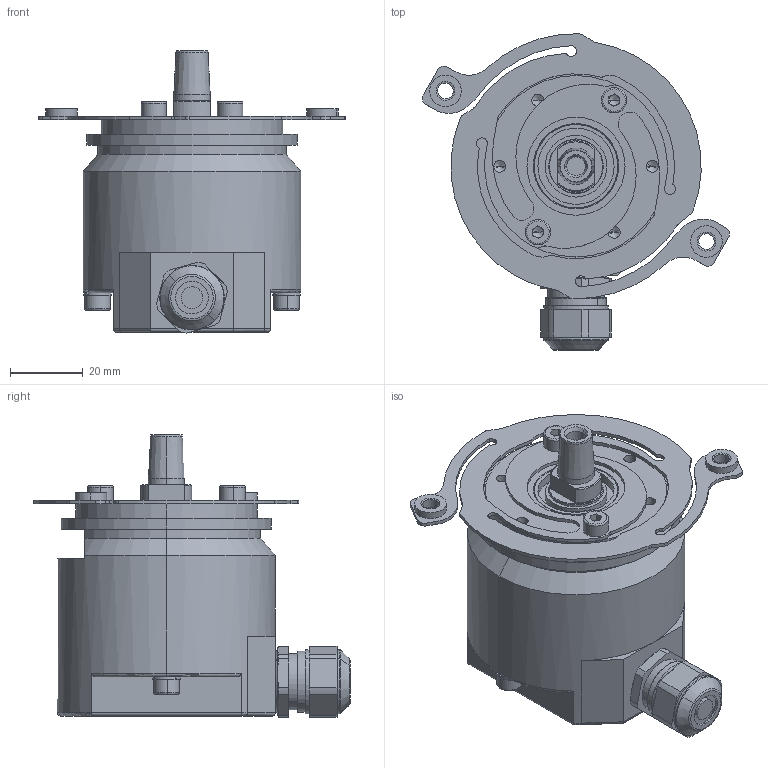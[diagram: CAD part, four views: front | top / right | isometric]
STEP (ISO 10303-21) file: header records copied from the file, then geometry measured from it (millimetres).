
FILE_DESCRIPTION (( 'STEP AP203' ), '1' );
FILE_NAME ('67S-22#0#.STEP', '2022-04-04T10:49:53', ( '' ), ( '' ), 'SwSTEP 2.0', 'SolidWorks 2021', '' );
FILE_SCHEMA (( 'CONFIG_CONTROL_DESIGN' ));
Length unit declared in the file: millimetre
Products named in the file (1): 67S-22#0#
Bounding box: 84.56 x 87.09 x 77.77 mm (x, y, z)
Volume: 160220.9 mm3; surface area: 32067.9 mm2
Topology: 11 solids, 14 shells, 509 faces, 1193 edges, 730 vertices
Faces by surface type: cylinder 214, plane 151, cone 95, torus 48, sphere 1
Entity records: 14683 total; most frequent: DIRECTION 2774, CARTESIAN_POINT 2579, ORIENTED_EDGE 2338, EDGE_CURVE 1169, AXIS2_PLACEMENT_3D 1131, VERTEX_POINT 730, CIRCLE 621, EDGE_LOOP 579
